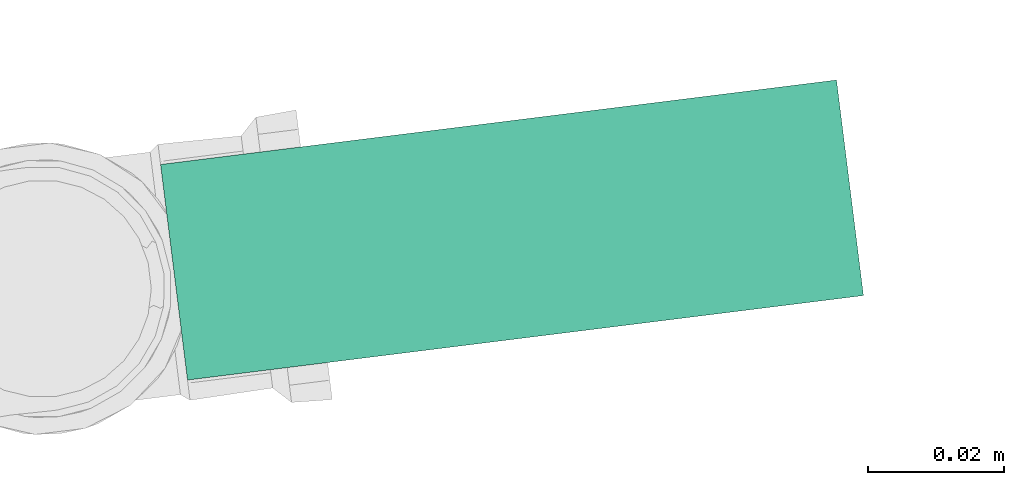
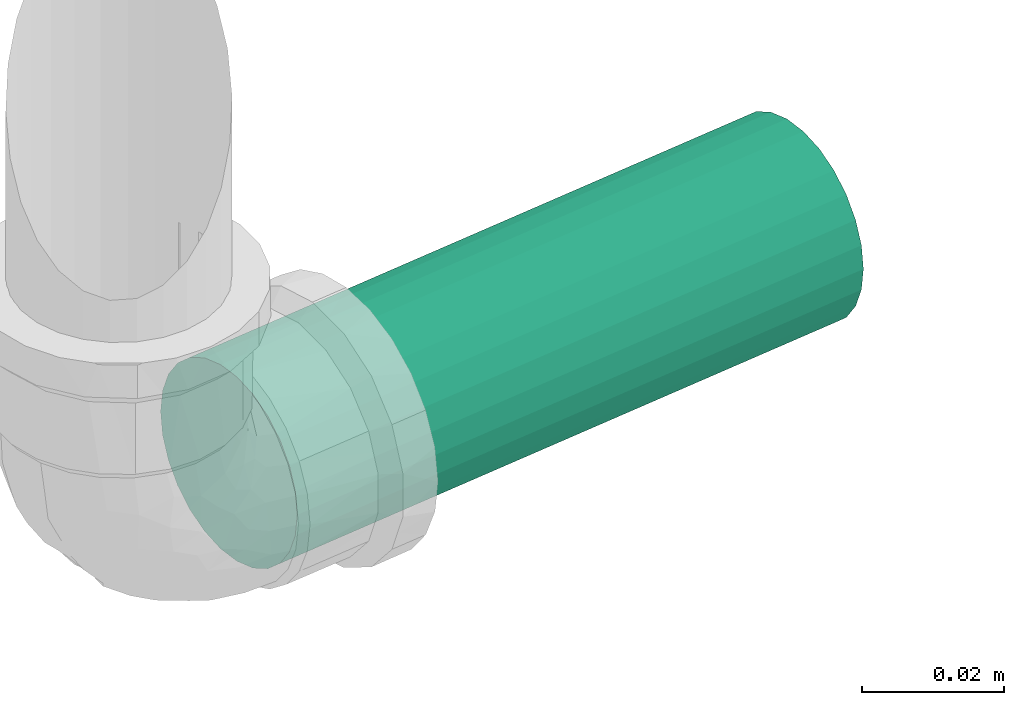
# One storey, part 6 of 8: 1 flow segment.
"""IFC2X3 building model written with IfcOpenShell, lengths in centimetres."""

from ifc_helpers import new_model, entity, si_unit, converted_unit, derived_unit, direction, frame, frame_2d, origin, place, context, subcontext, project, spatial, circle, extrude, type_object, element, save


model = new_model("IFC2X3")

# Units and contexts
model_context = context("Model", 3, precision=0.001, world=origin(), true_north=direction((6.12303176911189e-17, 1.0)))
body_context = subcontext(model_context, "Body", "Model", "MODEL_VIEW")
ifc_project = project(units=[si_unit("LENGTHUNIT", "METRE", prefix="CENTI"), si_unit("AREAUNIT", "SQUARE_METRE"), si_unit("VOLUMEUNIT", "CUBIC_METRE"), converted_unit("PLANEANGLEUNIT", "DEGREE", entity("IfcRatioMeasure", 0.0174532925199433), si_unit("PLANEANGLEUNIT", "RADIAN"), dimensions=[0, 0, 0, 0, 0, 0, 0]), si_unit("MASSUNIT", "GRAM", prefix="KILO"), derived_unit("MASSDENSITYUNIT", [(si_unit("MASSUNIT", "GRAM", prefix="KILO"), 1), (si_unit("LENGTHUNIT", "METRE"), -3)]), derived_unit("MOMENTOFINERTIAUNIT", [(si_unit("LENGTHUNIT", "METRE"), 4)]), si_unit("TIMEUNIT", "SECOND"), si_unit("FREQUENCYUNIT", "HERTZ"), si_unit("THERMODYNAMICTEMPERATUREUNIT", "DEGREE_CELSIUS"), derived_unit("THERMALTRANSMITTANCEUNIT", [(si_unit("MASSUNIT", "GRAM", prefix="KILO"), 1), (si_unit("THERMODYNAMICTEMPERATUREUNIT", "KELVIN"), -1), (si_unit("TIMEUNIT", "SECOND"), -3)]), derived_unit("VOLUMETRICFLOWRATEUNIT", [(si_unit("LENGTHUNIT", "METRE"), 3), (si_unit("TIMEUNIT", "SECOND"), -1)]), si_unit("ELECTRICCURRENTUNIT", "AMPERE"), si_unit("ELECTRICVOLTAGEUNIT", "VOLT"), si_unit("POWERUNIT", "WATT"), si_unit("FORCEUNIT", "NEWTON", prefix="KILO"), si_unit("ILLUMINANCEUNIT", "LUX"), si_unit("LUMINOUSFLUXUNIT", "LUMEN"), si_unit("LUMINOUSINTENSITYUNIT", "CANDELA"), derived_unit("USERDEFINED", [(si_unit("MASSUNIT", "GRAM", prefix="KILO"), -1), (si_unit("LENGTHUNIT", "METRE"), -2), (si_unit("TIMEUNIT", "SECOND"), 3), (si_unit("LUMINOUSFLUXUNIT", "LUMEN"), 1)]), derived_unit("LINEARVELOCITYUNIT", [(si_unit("LENGTHUNIT", "METRE"), 1), (si_unit("TIMEUNIT", "SECOND"), -1)]), si_unit("PRESSUREUNIT", "PASCAL"), derived_unit("USERDEFINED", [(si_unit("LENGTHUNIT", "METRE"), -2), (si_unit("MASSUNIT", "GRAM", prefix="KILO"), 1), (si_unit("TIMEUNIT", "SECOND"), -2)]), derived_unit("LINEARFORCEUNIT", [(si_unit("MASSUNIT", "GRAM", prefix="KILO"), 1), (si_unit("LENGTHUNIT", "METRE"), 1), (si_unit("TIMEUNIT", "SECOND"), -2), (si_unit("LENGTHUNIT", "METRE"), -1)]), derived_unit("PLANARFORCEUNIT", [(si_unit("MASSUNIT", "GRAM", prefix="KILO"), 1), (si_unit("LENGTHUNIT", "METRE"), 1), (si_unit("TIMEUNIT", "SECOND"), -2), (si_unit("LENGTHUNIT", "METRE"), -2)])], contexts=[model_context])

# Site, building, storey
site_placement = place(None, origin())
site = spatial("IfcSite", under=ifc_project, at=site_placement, Name="Default", CompositionType="ELEMENT")
building_placement = place(site_placement, origin())
building = spatial("IfcBuilding", under=site, at=building_placement, Name="HIDROSSANITÁRIO", CompositionType="ELEMENT")
storey_placement = place(building_placement, origin())
storey = spatial("IfcBuildingStorey", under=building, at=storey_placement, Name="TERRENO", CompositionType="ELEMENT", Elevation=0.0)

# Flow segment
pipe_segment_type = type_object("IfcPipeSegmentType", Name="Tipos de tubos:Tubo Marrom - Água Fria - Soldável", PredefinedType="NOTDEFINED")
flow_segment_placement = place(storey_placement, origin())
element("IfcFlowSegment", 1, at=flow_segment_placement, inside=storey, type_object=pipe_segment_type, Name="Tipos de tubos:Tubo Marrom - Água Fria - Soldável", ObjectType="Tipos de tubos:Tubo Marrom - Água Fria - Soldável", context=body_context, shape_type="SweptSolid", body=[
    extrude(circle(Radius=1.6, at=frame_2d((3.69722090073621e-43, 5.41433564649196e-14), x_axis=(1.0, 0.0))), frame((-1466.13992116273, 3169.92463576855, -257.850000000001), z_axis=(0.992279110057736, 0.124024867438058, 0.0), x_axis=(0.124024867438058, -0.992279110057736, 0.0)), (0.0, 0.0, 1.0), 10.0334474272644),
])

save(model, "model.ifc")
